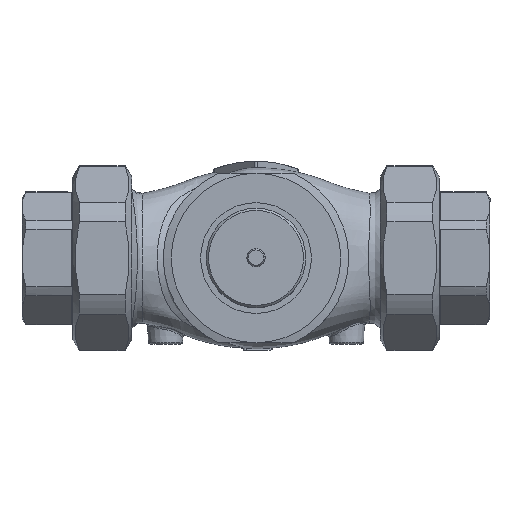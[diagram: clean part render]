
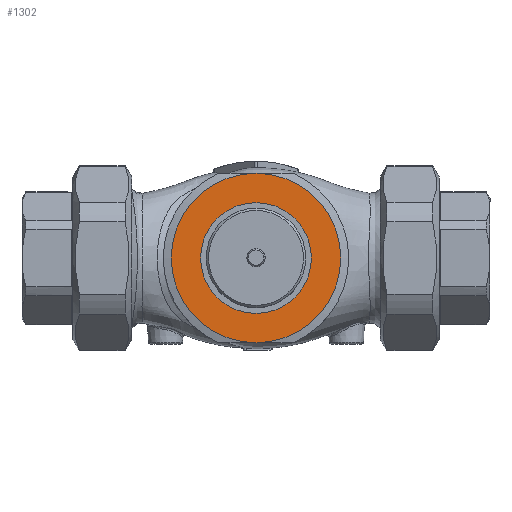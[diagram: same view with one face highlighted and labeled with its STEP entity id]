
A CAD part, top view. The second image highlights one B-rep face of the part: STEP entity #1302.
In plain terms, the highlighted planar face has unit normal (0, 0, 1).
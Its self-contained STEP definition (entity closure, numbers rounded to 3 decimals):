
#855=PLANE('',#9387);
#1099=FACE_BOUND('',#2616,.T.);
#1100=FACE_BOUND('',#2617,.T.);
#1302=ADVANCED_FACE('',(#1099,#1100),#855,.T.);
#2616=EDGE_LOOP('',(#3982));
#2617=EDGE_LOOP('',(#3983,#3984));
#3192=CIRCLE('',#9332,19.);
#3207=CIRCLE('',#9373,37.5);
#3211=CIRCLE('',#9380,37.5);
#3982=ORIENTED_EDGE('',*,*,#7238,.F.);
#3983=ORIENTED_EDGE('',*,*,#7276,.T.);
#3984=ORIENTED_EDGE('',*,*,#7267,.T.);
#6363=VERTEX_POINT('',#21248);
#6386=VERTEX_POINT('',#21322);
#6388=VERTEX_POINT('',#21329);
#7238=EDGE_CURVE('',#6363,#6363,#3192,.T.);
#7267=EDGE_CURVE('',#6386,#6388,#3207,.T.);
#7276=EDGE_CURVE('',#6388,#6386,#3211,.T.);
#9332=AXIS2_PLACEMENT_3D('',#21247,#10453,#10454);
#9373=AXIS2_PLACEMENT_3D('',#21330,#10543,#10544);
#9380=AXIS2_PLACEMENT_3D('',#21357,#10559,#10560);
#9387=AXIS2_PLACEMENT_3D('',#21380,#10575,#10576);
#10453=DIRECTION('',(0.,0.,1.));
#10454=DIRECTION('',(-1.,0.,0.));
#10543=DIRECTION('',(0.,0.,1.));
#10544=DIRECTION('',(1.,0.,0.));
#10559=DIRECTION('',(0.,0.,1.));
#10560=DIRECTION('',(1.,0.,0.));
#10575=DIRECTION('',(0.,0.,1.));
#10576=DIRECTION('',(1.,0.,0.));
#21247=CARTESIAN_POINT('',(0.,0.,67.));
#21248=CARTESIAN_POINT('',(-19.,0.,67.));
#21322=CARTESIAN_POINT('',(0.,37.5,67.));
#21329=CARTESIAN_POINT('',(0.,-37.5,67.));
#21330=CARTESIAN_POINT('',(0.,0.,67.));
#21357=CARTESIAN_POINT('',(0.,0.,67.));
#21380=CARTESIAN_POINT('',(25.5,0.,67.));
